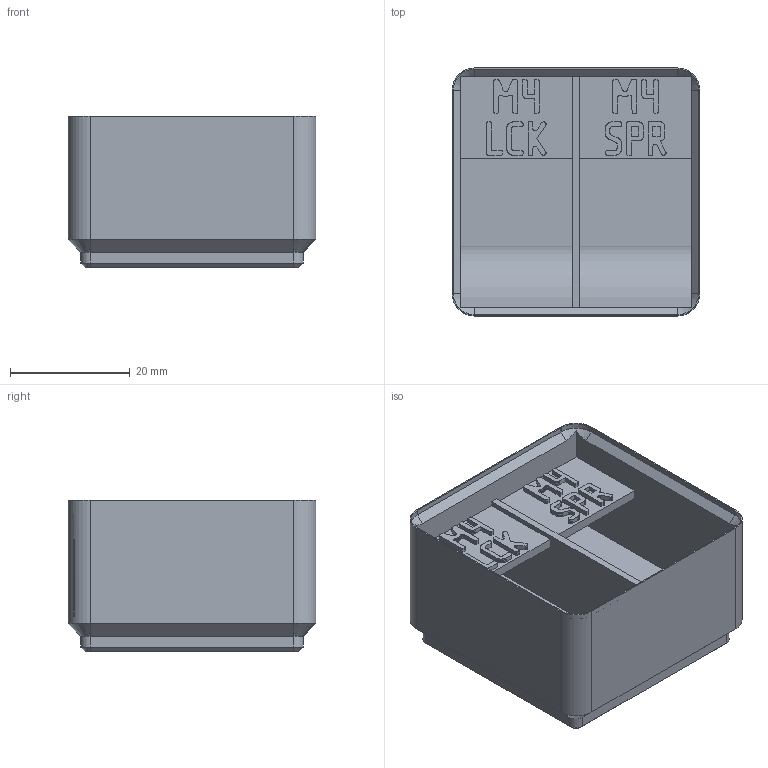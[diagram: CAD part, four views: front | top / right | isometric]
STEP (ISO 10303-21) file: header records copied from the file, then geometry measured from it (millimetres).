
FILE_DESCRIPTION(('Open CASCADE Model'),'2;1');
FILE_NAME('Open CASCADE Shape Model','2026-11-16T17:32:30',('Author'),( 'Open CASCADE'),'Open CASCADE STEP processor 8.0','build123d', 'Unknown');
FILE_SCHEMA(('AUTOMOTIVE_DESIGN { 1 0 10303 214 1 1 1 1 }'));
Products named in the file (1): SOLID
Bounding box: 41.5 x 41.5 x 25.4 mm (x, y, z)
Volume: 20314.4 mm3; surface area: 11141.8 mm2
Topology: 1 solids, 1 shells, 1081 faces, 3160 edges, 2096 vertices
Faces by surface type: plane 1055, cylinder 14, cone 12
Entity records: 74152 total; most frequent: CARTESIAN_POINT 14922, DIRECTION 9574, LINE 7310, VECTOR 7310, ORIENTED_EDGE 6320, PCURVE 6320, DEFINITIONAL_REPRESENTATION 6320, EDGE_CURVE 3160
